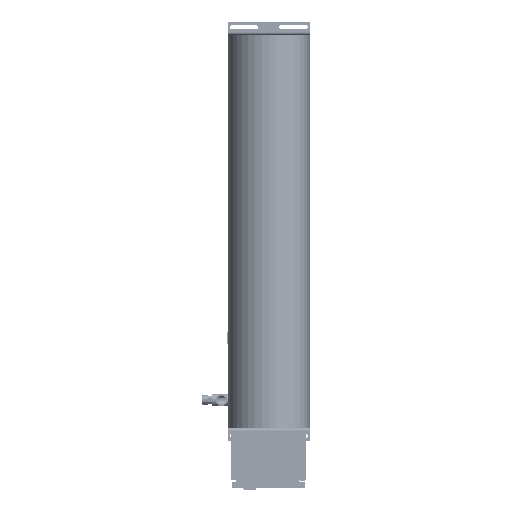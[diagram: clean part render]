
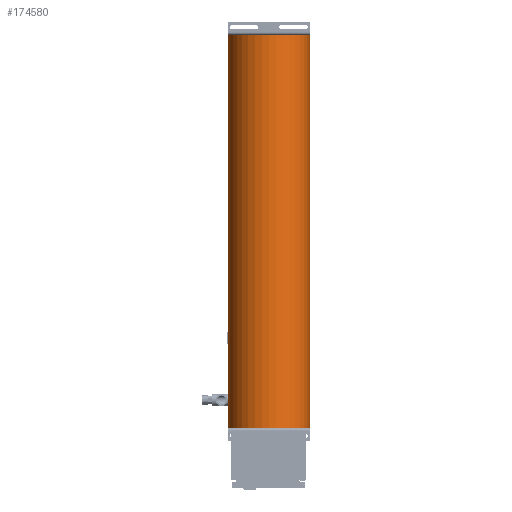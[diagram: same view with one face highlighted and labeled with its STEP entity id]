
A CAD part, front view. The second image highlights one B-rep face of the part: STEP entity #174580.
In plain terms, the highlighted cylindrical face has radius 109.55 mm (diameter 219.1 mm), a partial arc.
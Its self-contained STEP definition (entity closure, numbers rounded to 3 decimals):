
#224 = EDGE_CURVE ( 'NONE', #16167, #13048, #29653, .T. ) ;
#3031 = ORIENTED_EDGE ( 'NONE', *, *, #147442, .F. ) ;
#8057 = VERTEX_POINT ( 'NONE', #60484 ) ;
#9239 = CARTESIAN_POINT ( 'NONE',  ( -109.55, 0., 1070. ) ) ;
#12304 = ORIENTED_EDGE ( 'NONE', *, *, #150993, .T. ) ;
#13048 = VERTEX_POINT ( 'NONE', #41174 ) ;
#16167 = VERTEX_POINT ( 'NONE', #193846 ) ;
#16988 = DIRECTION ( 'NONE',  ( -1., 0., 0. ) ) ;
#19209 = DIRECTION ( 'NONE',  ( 1., 0., 0. ) ) ;
#28951 = DIRECTION ( 'NONE',  ( 1., 0., 0. ) ) ;
#29653 = LINE ( 'NONE', #9239, #164261 ) ;
#30082 = AXIS2_PLACEMENT_3D ( 'NONE', #60080, #39638, #19209 ) ;
#37436 = DIRECTION ( 'NONE',  ( 0., 0., -1. ) ) ;
#39638 = DIRECTION ( 'NONE',  ( 0., 0., 1. ) ) ;
#41174 = CARTESIAN_POINT ( 'NONE',  ( -109.55, 0., 20. ) ) ;
#47815 = ORIENTED_EDGE ( 'NONE', *, *, #224, .T. ) ;
#49422 = DIRECTION ( 'NONE',  ( 0., 0., 1. ) ) ;
#57848 = CARTESIAN_POINT ( 'NONE',  ( 0., 0., 1070. ) ) ;
#59222 = VERTEX_POINT ( 'NONE', #122825 ) ;
#59464 = EDGE_LOOP ( 'NONE', ( #187285, #3031, #47815, #12304 ) ) ;
#60080 = CARTESIAN_POINT ( 'NONE',  ( 0., 0., 20. ) ) ;
#60484 = CARTESIAN_POINT ( 'NONE',  ( 109.55, 0., 20. ) ) ;
#65068 = CIRCLE ( 'NONE', #30082, 109.55 ) ;
#68006 = AXIS2_PLACEMENT_3D ( 'NONE', #90341, #49422, #28951 ) ;
#76868 = DIRECTION ( 'NONE',  ( 0., 0., -1. ) ) ;
#90341 = CARTESIAN_POINT ( 'NONE',  ( 0., 0., 1070. ) ) ;
#97401 = CARTESIAN_POINT ( 'NONE',  ( 109.55, 0., 1070. ) ) ;
#102417 = EDGE_CURVE ( 'NONE', #59222, #8057, #117895, .T. ) ;
#108051 = CIRCLE ( 'NONE', #68006, 109.55 ) ;
#115680 = AXIS2_PLACEMENT_3D ( 'NONE', #57848, #37436, #16988 ) ;
#117895 = LINE ( 'NONE', #97401, #134124 ) ;
#122825 = CARTESIAN_POINT ( 'NONE',  ( 109.55, 0., 1070. ) ) ;
#131164 = FACE_OUTER_BOUND ( 'NONE', #59464, .T. ) ;
#134124 = VECTOR ( 'NONE', #76868, 1000. ) ;
#136356 = CYLINDRICAL_SURFACE ( 'NONE', #115680, 109.55 ) ;
#147442 = EDGE_CURVE ( 'NONE', #16167, #59222, #108051, .T. ) ;
#150993 = EDGE_CURVE ( 'NONE', #13048, #8057, #65068, .T. ) ;
#164261 = VECTOR ( 'NONE', #188799, 1000. ) ;
#174580 = ADVANCED_FACE ( 'NONE', ( #131164 ), #136356, .T. ) ;
#187285 = ORIENTED_EDGE ( 'NONE', *, *, #102417, .F. ) ;
#188799 = DIRECTION ( 'NONE',  ( 0., 0., -1. ) ) ;
#193846 = CARTESIAN_POINT ( 'NONE',  ( -109.55, 0., 1070. ) ) ;
